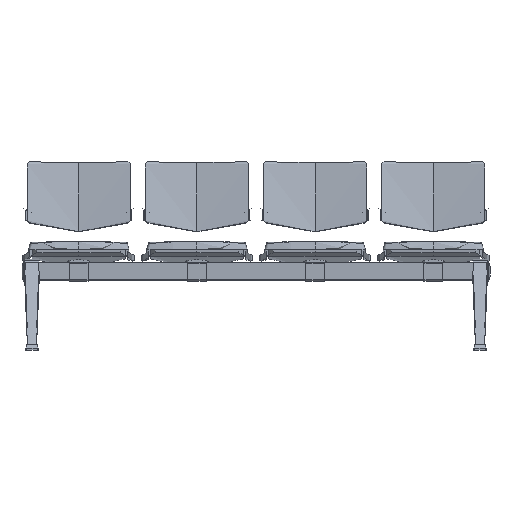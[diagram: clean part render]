
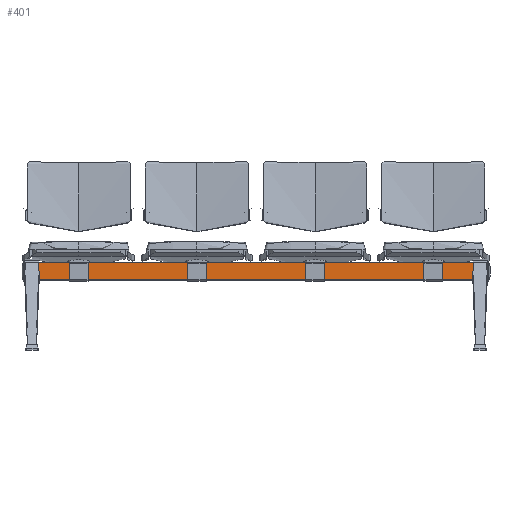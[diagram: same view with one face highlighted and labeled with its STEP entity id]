
A CAD part, front view. The second image highlights one B-rep face of the part: STEP entity #401.
In plain terms, the highlighted planar face has unit normal (0, -1, 0).
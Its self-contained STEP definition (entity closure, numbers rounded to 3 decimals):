
#401=ADVANCED_FACE('',(#1045),#8060,.T.);
#1045=FACE_OUTER_BOUND('',#1689,.T.);
#1689=EDGE_LOOP('',(#2959,#2960,#2961,#2962));
#2959=ORIENTED_EDGE('',*,*,#5379,.F.);
#2960=ORIENTED_EDGE('',*,*,#5377,.T.);
#2961=ORIENTED_EDGE('',*,*,#5381,.F.);
#2962=ORIENTED_EDGE('',*,*,#5380,.F.);
#5377=EDGE_CURVE('',#6987,#6988,#8851,.T.);
#5379=EDGE_CURVE('',#6987,#6989,#8852,.T.);
#5380=EDGE_CURVE('',#6989,#6990,#8853,.T.);
#5381=EDGE_CURVE('',#6990,#6988,#8854,.T.);
#6987=VERTEX_POINT('',#12795);
#6988=VERTEX_POINT('',#12796);
#6989=VERTEX_POINT('',#12797);
#6990=VERTEX_POINT('',#12798);
#8060=PLANE('',#9673);
#8851=B_SPLINE_CURVE_WITH_KNOTS('',1,(#12821,#12822),.UNSPECIFIED.,.F.,
 .F.,(2,2),(0.,1000.),.UNSPECIFIED.);
#8852=B_SPLINE_CURVE_WITH_KNOTS('',1,(#12826,#12827),.UNSPECIFIED.,.F.,
 .F.,(2,2),(717.85,791.85),.UNSPECIFIED.);
#8853=B_SPLINE_CURVE_WITH_KNOTS('',1,(#12828,#12829),.UNSPECIFIED.,.F.,
 .F.,(2,2),(0.,1000.),.UNSPECIFIED.);
#8854=B_SPLINE_CURVE_WITH_KNOTS('',1,(#12830,#12831),.UNSPECIFIED.,.F.,
 .F.,(2,2),(-791.85,-717.85),.UNSPECIFIED.);
#9673=AXIS2_PLACEMENT_3D('',#12770,#9982,$);
#9982=DIRECTION('',(0.,-1.,0.));
#12770=CARTESIAN_POINT('',(-1000.,-20.,303.));
#12795=CARTESIAN_POINT('',(-1000.,-20.,303.));
#12796=CARTESIAN_POINT('',(1000.,-20.,303.));
#12797=CARTESIAN_POINT('',(-1000.,-20.,377.));
#12798=CARTESIAN_POINT('',(1000.,-20.,377.));
#12821=CARTESIAN_POINT('',(-1000.,-20.,303.));
#12822=CARTESIAN_POINT('',(1000.,-20.,303.));
#12826=CARTESIAN_POINT('',(-1000.,-20.,303.));
#12827=CARTESIAN_POINT('',(-1000.,-20.,377.));
#12828=CARTESIAN_POINT('',(-1000.,-20.,377.));
#12829=CARTESIAN_POINT('',(1000.,-20.,377.));
#12830=CARTESIAN_POINT('',(1000.,-20.,377.));
#12831=CARTESIAN_POINT('',(1000.,-20.,303.));
